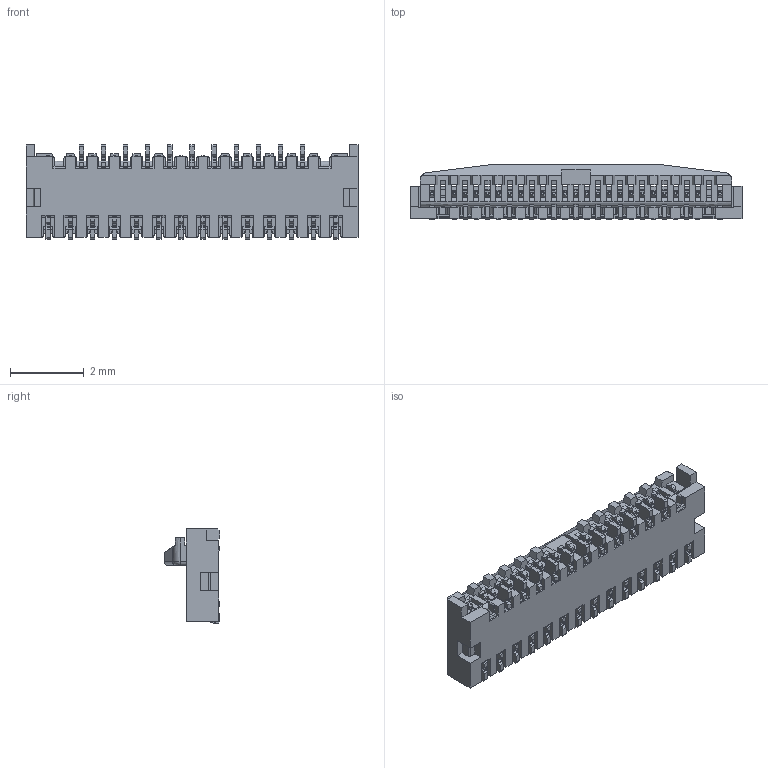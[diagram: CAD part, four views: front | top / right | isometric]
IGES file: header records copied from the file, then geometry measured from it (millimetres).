
Start section: SolidWorks IGES file using analytic representation for surfaces
Global section: file name: C:\3dwork\3dwork\MINIFLEX3-BFN LK TYPE ’†ŠÔƒtƒ@ƒCƒ‹_140523\20599-023ExC ASS'Y ACT OPEN IGES R1 ALL.IGS; native system: SolidWorks 2011; preprocessor: SolidWorks 2011; author: kaihatsu-3dcad-6; date: 141204.132252; units: millimetre
Bounding box: 9 x 1.5 x 2.55 mm (x, y, z)
Surface area: 128.5 mm2 (no closed solid volume)
Topology: 0 solids, 0 shells, 2828 faces, 18176 edges, 18174 vertices
Faces by surface type: bspline 2297, revolution 531
